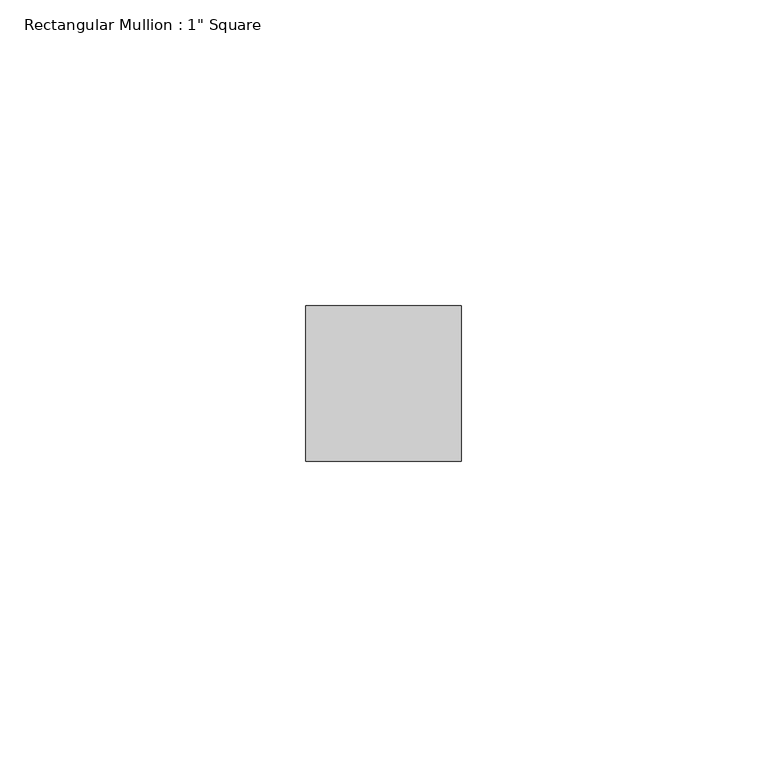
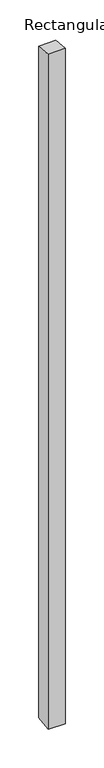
"""IFC4 building model written with IfcOpenShell, lengths in millimetres: member geometry."""

from ifc_helpers import new_model, si_unit, origin, place, context, project, spatial, faceted_brep, source, transform, mapped, element, save


def member_6c74bff8(model_context):
    return source(origin(), model_context, "Body", "Brep", [
        faceted_brep([(-25.4, 12.7, -1.9331519), (0.0, 12.7, -1.4201165), (0.0, 12.7, -1065.3798835), (-25.4, 12.7, -1064.8668481), (-25.4, -12.7, 0.9070812), (-25.4, -12.7, -1067.7070812), (0.0, -12.7, 1.4201165), (0.0, -12.7, -1068.2201165)], [[[0, 1, 2, 3]], [[4, 0, 3, 5]], [[6, 4, 5, 7]], [[1, 6, 7, 2]], [[1, 0, 4, 6]], [[2, 7, 5, 3]]]),
    ])


if __name__ == "__main__":
    model = new_model("IFC4")
    model_context = context("Model", 3, world=origin())
    ifc_project = project(units=[si_unit("LENGTHUNIT", "METRE", prefix="MILLI")], contexts=[model_context])
    site = spatial("IfcSite", under=ifc_project)
    building = spatial("IfcBuilding", under=site)
    placement = place(None, origin())
    member_shape = member_6c74bff8(model_context)
    element("IfcMember", 1, ObjectType="Rectangular Mullion : 1\" Square", at=placement, inside=building, context=model_context, shape_type="MappedRepresentation", body=[
        mapped(member_shape, transform((0.0, 0.0, 0.0), x_axis=(1.0, 0.0, 0.0), y_axis=(0.0, 1.0, 0.0), z_axis=(0.0, 0.0, 1.0))),
    ])
    save(model, "model.ifc")
